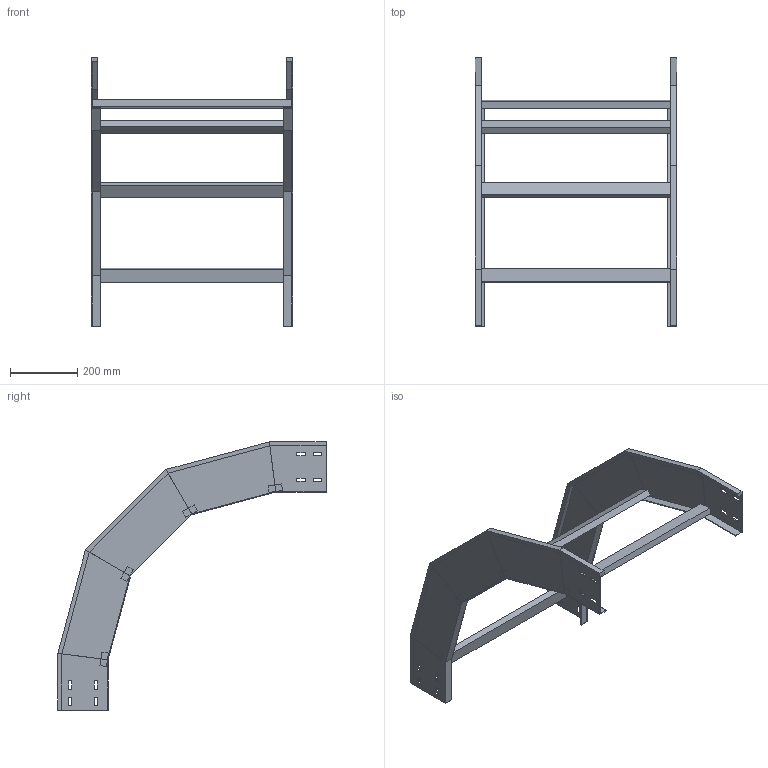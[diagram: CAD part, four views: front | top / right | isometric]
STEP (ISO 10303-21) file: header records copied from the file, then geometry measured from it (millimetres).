
FILE_DESCRIPTION (( 'STEP AP214' ), '1' );
FILE_NAME ('33J5F600.step', '2025-02-21T16:23:14', ( '' ), ( '' ), 'SwSTEP 2.0', 'SolidWorks 2023', '' );
FILE_SCHEMA (( 'AUTOMOTIVE_DESIGN' ));
Length unit declared in the file: millimetre
Products named in the file (3): LONGH.DISCESA_90°_H150_R500; 33J5F600; TRAVERSINO_600
Assembly tree (6 placements, depth 2):
  33J5F600
    LONGH.DISCESA_90°_H150_R500  x2
    TRAVERSINO_600  x4
Bounding box: 600 x 800.35 x 800.35 mm (x, y, z)
Volume: 3251781.6 mm3; surface area: 1211310.1 mm2
Topology: 6 solids, 6 shells, 172 faces, 416 edges, 256 vertices
Faces by surface type: plane 172
Entity records: 2416 total; most frequent: CARTESIAN_POINT 405, ORIENTED_EDGE 392, DIRECTION 374, EDGE_CURVE 196, VECTOR 196, LINE 196, VERTEX_POINT 120, EDGE_LOOP 96
